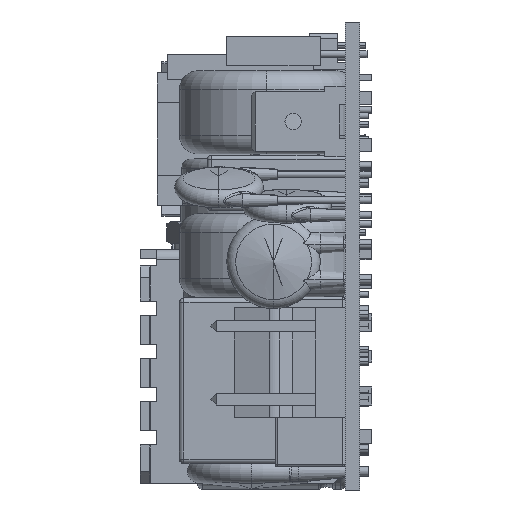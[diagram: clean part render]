
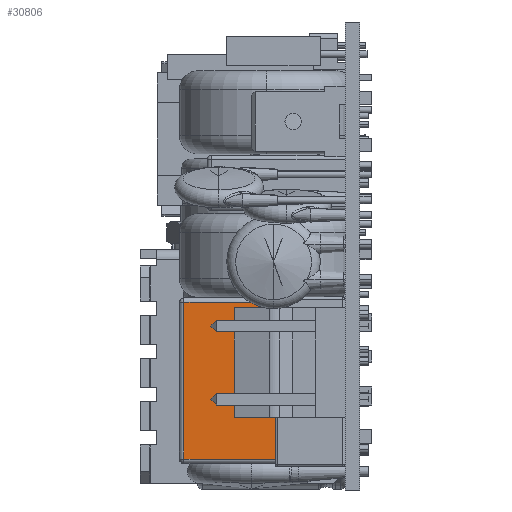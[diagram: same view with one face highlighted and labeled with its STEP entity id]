
A CAD part, left-side view. The second image highlights one B-rep face of the part: STEP entity #30806.
In plain terms, the highlighted planar face has unit normal (-1, 0, 0).
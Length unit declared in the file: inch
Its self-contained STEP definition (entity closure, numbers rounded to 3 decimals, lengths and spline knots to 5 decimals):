
#30071 = EDGE_CURVE ( 'NONE', #30254, #30111, #31574, .T. ) ;
#30111 = VERTEX_POINT ( 'NONE', #31569 ) ;
#30254 = VERTEX_POINT ( 'NONE', #31842 ) ;
#30631 = EDGE_LOOP ( 'NONE', ( #31834, #30970, #30822, #31737 ) ) ;
#30794 = EDGE_CURVE ( 'NONE', #30111, #30827, #31910, .T. ) ;
#30806 = ADVANCED_FACE ( 'NONE', ( #31924 ), #31895, .F. ) ;
#30809 = VERTEX_POINT ( 'NONE', #31946 ) ;
#30822 = ORIENTED_EDGE ( 'NONE', *, *, #30845, .T. ) ;
#30827 = VERTEX_POINT ( 'NONE', #31947 ) ;
#30845 = EDGE_CURVE ( 'NONE', #30827, #30809, #31939, .T. ) ;
#30970 = ORIENTED_EDGE ( 'NONE', *, *, #30794, .T. ) ;
#31543 = EDGE_CURVE ( 'NONE', #30809, #30254, #72409, .T. ) ;
#31569 = CARTESIAN_POINT ( 'NONE',  ( -0.1378, 0., 0.33465 ) ) ;
#31570 = DIRECTION ( 'NONE',  ( 0., 0., 1. ) ) ;
#31571 = VECTOR ( 'NONE', #31570, 39.37008 ) ;
#31573 = CARTESIAN_POINT ( 'NONE',  ( -0.1378, 0., -0.35433 ) ) ;
#31574 = LINE ( 'NONE', #31573, #31571 ) ;
#31737 = ORIENTED_EDGE ( 'NONE', *, *, #31543, .T. ) ;
#31834 = ORIENTED_EDGE ( 'NONE', *, *, #30071, .T. ) ;
#31842 = CARTESIAN_POINT ( 'NONE',  ( -0.1378, 0., -0.33465 ) ) ;
#31892 = DIRECTION ( 'NONE',  ( 0., 1., 0. ) ) ;
#31893 = VECTOR ( 'NONE', #31892, 39.37008 ) ;
#31894 = CARTESIAN_POINT ( 'NONE',  ( -0.1378, 0.70866, 0.33465 ) ) ;
#31895 = PLANE ( 'NONE',  #31943 ) ;
#31910 = LINE ( 'NONE', #31894, #31893 ) ;
#31924 = FACE_OUTER_BOUND ( 'NONE', #30631, .T. ) ;
#31939 = LINE ( 'NONE', #31981, #31968 ) ;
#31940 = DIRECTION ( 'NONE',  ( 0., 0., -1. ) ) ;
#31941 = DIRECTION ( 'NONE',  ( 1., 0., 0. ) ) ;
#31942 = CARTESIAN_POINT ( 'NONE',  ( -0.1378, 0.70866, -0.35433 ) ) ;
#31943 = AXIS2_PLACEMENT_3D ( 'NONE', #31942, #31941, #31940 ) ;
#31946 = CARTESIAN_POINT ( 'NONE',  ( -0.1378, 0.68898, -0.33465 ) ) ;
#31947 = CARTESIAN_POINT ( 'NONE',  ( -0.1378, 0.68898, 0.33465 ) ) ;
#31968 = VECTOR ( 'NONE', #31980, 39.37008 ) ;
#31980 = DIRECTION ( 'NONE',  ( 0., 0., -1. ) ) ;
#31981 = CARTESIAN_POINT ( 'NONE',  ( -0.1378, 0.68898, -0.35433 ) ) ;
#72381 = DIRECTION ( 'NONE',  ( 0., -1., 0. ) ) ;
#72382 = VECTOR ( 'NONE', #72381, 39.37008 ) ;
#72383 = CARTESIAN_POINT ( 'NONE',  ( -0.1378, 0.70866, -0.33465 ) ) ;
#72409 = LINE ( 'NONE', #72383, #72382 ) ;
